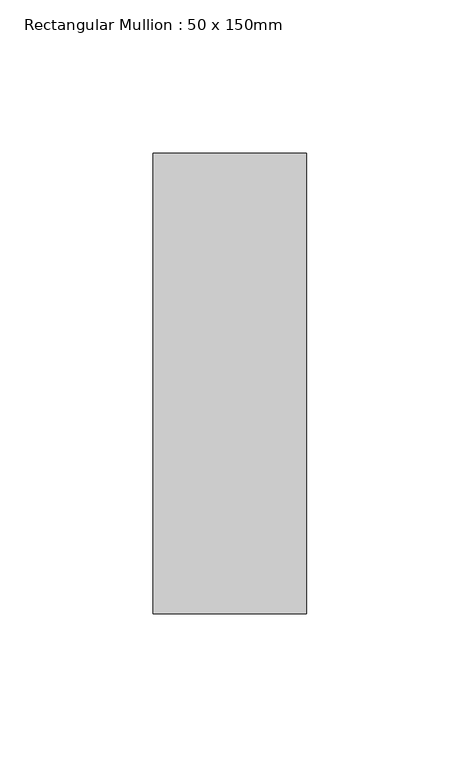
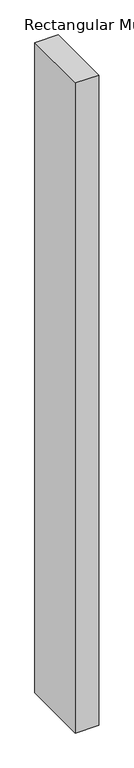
"""IFC4 building model written with IfcOpenShell, lengths in millimetres: member geometry, Rectangular Mullion : 50 x 150mm."""

from ifc_helpers import new_model, si_unit, frame, origin, place, context, project, spatial, polyline, outline, extrude, source, transform, mapped, element, save


def rectangular_mullion_50_x_150mm_abe4d200(model_context):
    return source(origin(), model_context, "Body", "SweptSolid", [
        extrude(outline(polyline([(0.0, 75.0), (0.0, -75.0), (-50.0, -75.0), (-50.0, 75.0), (0.0, 75.0)])), frame((0.0, 0.0, -1473.9999998), z_axis=(0.0, 0.0, 1.0), x_axis=(1.0, 0.0, 0.0)), (0.0, 0.0, 1.0), 1473.9999998),
    ])


if __name__ == "__main__":
    model = new_model("IFC4")
    model_context = context("Model", 3, world=origin())
    ifc_project = project(units=[si_unit("LENGTHUNIT", "METRE", prefix="MILLI")], contexts=[model_context])
    site = spatial("IfcSite", under=ifc_project)
    building = spatial("IfcBuilding", under=site)
    placement = place(None, origin())
    rectangular_mullion_50_x_150mm_shape = rectangular_mullion_50_x_150mm_abe4d200(model_context)
    element("IfcMember", 1, ObjectType="Rectangular Mullion : 50 x 150mm", at=placement, inside=building, context=model_context, shape_type="MappedRepresentation", body=[
        mapped(rectangular_mullion_50_x_150mm_shape, transform((0.0, 0.0, 0.0), x_axis=(1.0, 0.0, 0.0), y_axis=(0.0, 1.0, 0.0), z_axis=(0.0, 0.0, 1.0))),
    ])
    save(model, "model.ifc")
